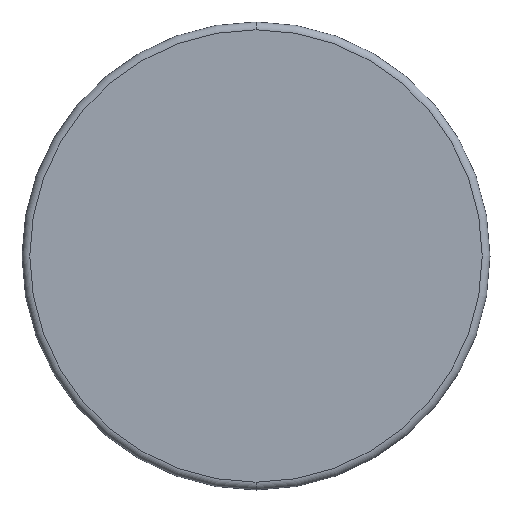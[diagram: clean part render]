
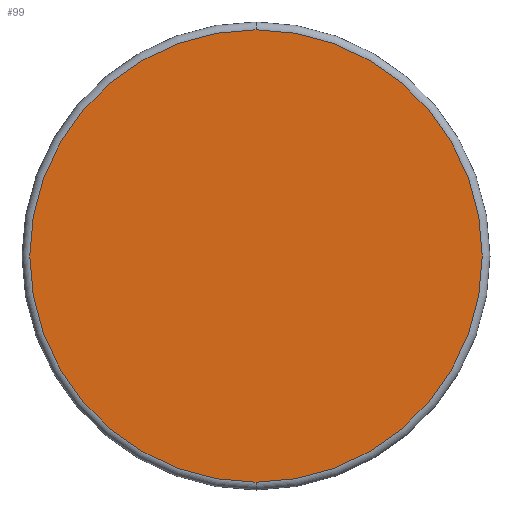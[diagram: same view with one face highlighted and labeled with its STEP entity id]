
A CAD part, front view. The second image highlights one B-rep face of the part: STEP entity #99.
In plain terms, the highlighted planar face has unit normal (0, -1, 0).
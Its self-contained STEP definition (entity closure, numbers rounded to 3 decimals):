
#2 = DIRECTION ( 'NONE',  ( 0., -1., 0. ) ) ;
#74 = ORIENTED_EDGE ( 'NONE', *, *, #182, .T. ) ;
#81 = CIRCLE ( 'NONE', #216, 29. ) ;
#86 = CARTESIAN_POINT ( 'NONE',  ( 0., 0., -29. ) ) ;
#98 = DIRECTION ( 'NONE',  ( 0., 0., -1. ) ) ;
#99 = ADVANCED_FACE ( 'NONE', ( #713 ), #689, .F. ) ;
#163 = CARTESIAN_POINT ( 'NONE',  ( 0., 0., 0. ) ) ;
#182 = EDGE_CURVE ( 'NONE', #238, #756, #722, .T. ) ;
#184 = CARTESIAN_POINT ( 'NONE',  ( 0., 0., 0. ) ) ;
#187 = EDGE_LOOP ( 'NONE', ( #74, #846 ) ) ;
#216 = AXIS2_PLACEMENT_3D ( 'NONE', #184, #2, #904 ) ;
#238 = VERTEX_POINT ( 'NONE', #86 ) ;
#433 = AXIS2_PLACEMENT_3D ( 'NONE', #163, #701, #708 ) ;
#548 = AXIS2_PLACEMENT_3D ( 'NONE', #914, #1103, #98 ) ;
#689 = PLANE ( 'NONE',  #433 ) ;
#701 = DIRECTION ( 'NONE',  ( 0., 1., 0. ) ) ;
#708 = DIRECTION ( 'NONE',  ( 0., 0., 1. ) ) ;
#713 = FACE_OUTER_BOUND ( 'NONE', #187, .T. ) ;
#722 = CIRCLE ( 'NONE', #548, 29. ) ;
#750 = EDGE_CURVE ( 'NONE', #756, #238, #81, .T. ) ;
#756 = VERTEX_POINT ( 'NONE', #1008 ) ;
#846 = ORIENTED_EDGE ( 'NONE', *, *, #750, .T. ) ;
#904 = DIRECTION ( 'NONE',  ( 0., 0., -1. ) ) ;
#914 = CARTESIAN_POINT ( 'NONE',  ( 0., 0., 0. ) ) ;
#1008 = CARTESIAN_POINT ( 'NONE',  ( 0., 0., 29. ) ) ;
#1103 = DIRECTION ( 'NONE',  ( 0., -1., 0. ) ) ;
